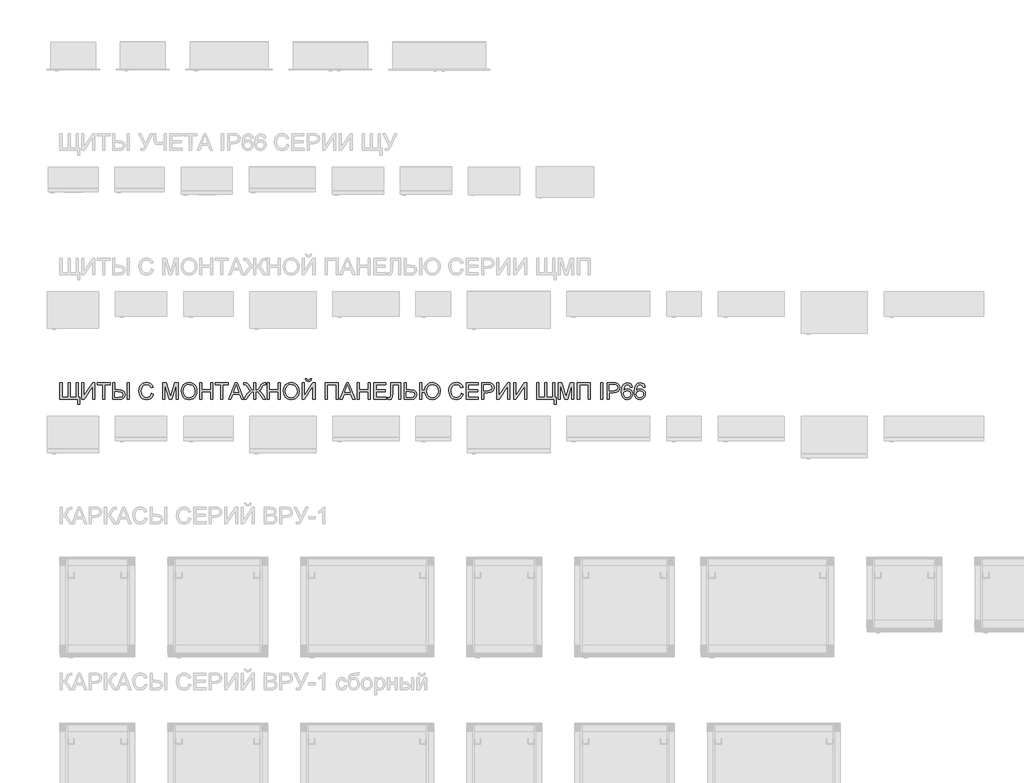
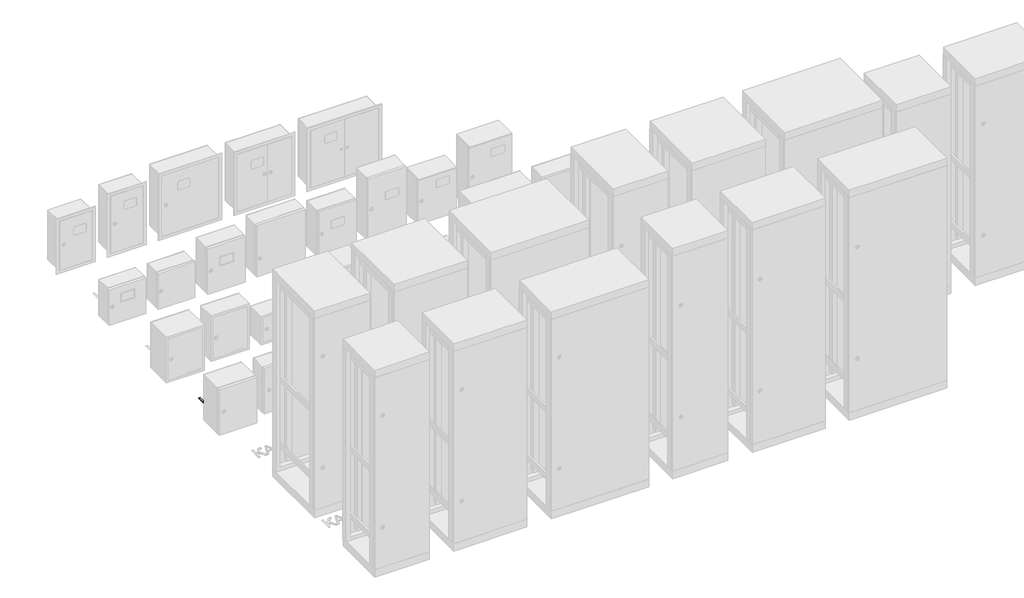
# One storey, part 8 of 25: 1 proxy.
"""IFC4 building model written with IfcOpenShell, lengths in millimetres."""

from ifc_helpers import new_model, si_unit, frame, origin, place, context, project, spatial, polyline, outline, extrude, element, save

model = new_model("IFC4")

# Units and contexts
model_context = context("Model", 3, world=origin())
ifc_project = project(units=[si_unit("LENGTHUNIT", "METRE", prefix="MILLI")], contexts=[model_context])

# Site, building, storey
site = spatial("IfcSite", under=ifc_project)
building = spatial("IfcBuilding", under=site)
storey = spatial("IfcBuildingStorey", under=building, Name="Этаж 01", Elevation=0.0)

# Proxy
placement = place(None, origin())
element("IfcBuildingElementProxy", 1, Name="Надпись на модели 1", ObjectType="Надпись на модели 1", at=placement, inside=storey, context=model_context, shape_type="SweptSolid", body=[
    extrude(outline(polyline([(-19039.6906686, 4636.6915941), (-19027.1336298, 4636.6915941), (-19027.1336298, 4548.7923228), (-18991.0321433, 4548.7923228), (-18991.0321433, 4636.6915941), (-18978.4751046, 4636.6915941), (-18978.4751046, 4548.7923228), (-18942.3736181, 4548.7923228), (-18942.3736181, 4636.6915941), (-18929.8165793, 4636.6915941), (-18929.8165793, 4548.7923228), (-18920.3988003, 4548.7923228), (-18920.3988003, 4507.9819468), (-18932.955839, 4507.9819468), (-18932.955839, 4536.235284), (-19039.6906686, 4536.235284), (-19039.6906686, 4636.6915941)])), frame((0.0, 0.0, 40.0), z_axis=(0.0, 0.0, 1.0), x_axis=(1.0, 0.0, 0.0)), (0.0, 0.0, 1.0), 2.0),
    extrude(outline(polyline([(-18907.8417615, 4636.6915941), (-18895.2847227, 4636.6915941), (-18895.2847227, 4557.1309813), (-18842.7021229, 4636.6915941), (-18829.3602692, 4636.6915941), (-18829.3602692, 4536.235284), (-18841.917308, 4536.235284), (-18841.917308, 4615.5751676), (-18894.3772805, 4536.235284), (-18907.8417615, 4536.235284), (-18907.8417615, 4636.6915941)])), frame((0.0, 0.0, 40.0), z_axis=(0.0, 0.0, 1.0), x_axis=(1.0, 0.0, 0.0)), (0.0, 0.0, 1.0), 2.0),
    extrude(outline(polyline([(-18782.2713738, 4536.235284), (-18782.2713738, 4624.1345554), (-18815.2336006, 4624.1345554), (-18815.2336006, 4636.6915941), (-18736.7521083, 4636.6915941), (-18736.7521083, 4624.1345554), (-18769.714335, 4624.1345554), (-18769.714335, 4536.235284), (-18782.2713738, 4536.235284)])), frame((0.0, 0.0, 40.0), z_axis=(0.0, 0.0, 1.0), x_axis=(1.0, 0.0, 0.0)), (0.0, 0.0, 1.0), 2.0),
    extrude(outline(polyline([(-18722.6254397, 4636.6915941), (-18710.0684009, 4636.6915941), (-18710.0684009, 4594.3115883), (-18685.935342, 4594.3115883), (-18666.2965748, 4592.1165591), (-18654.7634743, 4585.5314713), (-18649.1532739, 4576.1627432), (-18647.2832071, 4565.6167927), (-18649.2605728, 4554.6017926), (-18655.1926699, 4545.0521891), (-18666.4958443, 4538.4395103), (-18684.5864414, 4536.235284), (-18722.6254397, 4536.235284), (-18722.6254397, 4636.6915941)]), holes=[polyline([(-18710.0684009, 4548.7923228), (-18684.7090687, 4548.7923228), (-18665.7386205, 4552.777711), (-18661.3148395, 4557.9617815), (-18659.8402458, 4565.5432163), (-18663.4087012, 4575.5250811), (-18672.6302765, 4580.6509035), (-18691.5026229, 4581.7545495), (-18710.0684009, 4581.7545495), (-18710.0684009, 4548.7923228)])]), frame((0.0, 0.0, 40.0), z_axis=(0.0, 0.0, 1.0), x_axis=(1.0, 0.0, 0.0)), (0.0, 0.0, 1.0), 2.0),
    extrude(outline(polyline([(-18634.7261683, 4636.6915941), (-18622.1691295, 4636.6915941), (-18622.1691295, 4536.235284), (-18634.7261683, 4536.235284), (-18634.7261683, 4636.6915941)])), frame((0.0, 0.0, 40.0), z_axis=(0.0, 0.0, 1.0), x_axis=(1.0, 0.0, 0.0)), (0.0, 0.0, 1.0), 2.0),
    extrude(outline(polyline([(-18488.7505926, 4571.944363), (-18476.1935538, 4568.7070014), (-18481.9876953, 4554.0744951), (-18491.0805119, 4543.3844574), (-18503.024414, 4536.845355), (-18517.3718118, 4534.6656541), (-18531.9368731, 4536.3149918), (-18543.5036962, 4541.2630046), (-18552.3696523, 4549.3380144), (-18558.8321127, 4560.3683429), (-18564.0928252, 4587.2237285), (-18562.6059688, 4601.8715633), (-18558.1453996, 4614.5205726), (-18550.9441096, 4624.7691518), (-18541.2350906, 4632.2156965), (-18529.7203841, 4636.7498421), (-18517.1020317, 4638.261224), (-18503.334048, 4636.305318), (-18491.951166, 4630.4376002), (-18483.3090048, 4621.0198211), (-18477.7631837, 4608.4137314), (-18490.3202224, 4605.4216246), (-18500.6209183, 4620.8604056), (-18517.592541, 4625.7041852), (-18537.2374396, 4620.3331081), (-18548.3352131, 4605.9121339), (-18551.5357864, 4587.248254), (-18547.7466019, 4565.6167927), (-18535.9498526, 4551.7966924), (-18518.6226106, 4547.2226929), (-18508.1410394, 4548.78006), (-18499.4069077, 4553.4521614), (-18492.812623, 4561.189946), (-18488.7505926, 4571.944363)])), frame((0.0, 0.0, 40.0), z_axis=(0.0, 0.0, 1.0), x_axis=(1.0, 0.0, 0.0)), (0.0, 0.0, 1.0), 2.0),
    extrude(outline(polyline([(-18419.6868794, 4536.235284), (-18419.6868794, 4636.6915941), (-18398.0799435, 4636.6915941), (-18377.5276027, 4565.8865728), (-18373.3827989, 4551.0977166), (-18368.8946386, 4567.1128461), (-18348.6856543, 4636.6915941), (-18327.0787185, 4636.6915941), (-18327.0787185, 4536.235284), (-18339.6357572, 4536.235284), (-18339.6357572, 4624.1345554), (-18364.8724621, 4536.235284), (-18381.8931357, 4536.235284), (-18407.1298406, 4624.1345554), (-18407.1298406, 4536.235284), (-18419.6868794, 4536.235284)])), frame((0.0, 0.0, 40.0), z_axis=(0.0, 0.0, 1.0), x_axis=(1.0, 0.0, 0.0)), (0.0, 0.0, 1.0), 2.0),
    extrude(outline(polyline([(-18309.8127901, 4585.1390639), (-18306.465064, 4607.353005), (-18296.4218855, 4624.1590808), (-18281.0873377, 4634.7356882), (-18261.8655034, 4638.261224), (-18248.6891966, 4636.605755), (-18236.8740532, 4631.6393481), (-18227.0638667, 4623.7114911), (-18219.9024305, 4613.1716719), (-18215.5246348, 4600.528794), (-18214.0653695, 4586.2917608), (-18215.6012769, 4571.8646552), (-18220.2089989, 4559.0439677), (-18227.6340838, 4548.4857544), (-18237.62208, 4540.8460717), (-18249.3360558, 4536.2107585), (-18261.9390798, 4534.6656541), (-18275.3177217, 4536.3732397), (-18287.2003102, 4541.4959965), (-18296.9859712, 4549.5710063), (-18304.073831, 4560.1353509), (-18309.8127901, 4585.1390639)]), holes=[polyline([(-18297.2557514, 4585.0164366), (-18294.7449568, 4569.301744), (-18287.2125729, 4557.327185), (-18275.8910045, 4549.7488159), (-18262.0126562, 4547.2226929), (-18247.9319729, 4549.7733414), (-18236.5920104, 4557.4252869), (-18229.1148088, 4569.7677279), (-18226.6224083, 4586.3898627), (-18230.8898394, 4607.1138817), (-18243.3610391, 4620.8358802), (-18261.791927, 4625.7041852), (-18275.2993276, 4623.3589375), (-18286.7833772, 4616.3231943), (-18294.6376578, 4603.8060095), (-18297.2557514, 4585.0164366)])]), frame((0.0, 0.0, 40.0), z_axis=(0.0, 0.0, 1.0), x_axis=(1.0, 0.0, 0.0)), (0.0, 0.0, 1.0), 2.0),
    extrude(outline(polyline([(-18196.7994412, 4536.235284), (-18196.7994412, 4636.6915941), (-18184.2424025, 4636.6915941), (-18184.2424025, 4595.8812181), (-18130.8749877, 4595.8812181), (-18130.8749877, 4636.6915941), (-18118.3179489, 4636.6915941), (-18118.3179489, 4536.235284), (-18130.8749877, 4536.235284), (-18130.8749877, 4583.3241794), (-18184.2424025, 4583.3241794), (-18184.2424025, 4536.235284), (-18196.7994412, 4536.235284)])), frame((0.0, 0.0, 40.0), z_axis=(0.0, 0.0, 1.0), x_axis=(1.0, 0.0, 0.0)), (0.0, 0.0, 1.0), 2.0),
    extrude(outline(polyline([(-18071.2290535, 4536.235284), (-18071.2290535, 4624.1345554), (-18104.1912803, 4624.1345554), (-18104.1912803, 4636.6915941), (-18025.709788, 4636.6915941), (-18025.709788, 4624.1345554), (-18058.6720148, 4624.1345554), (-18058.6720148, 4536.235284), (-18071.2290535, 4536.235284)])), frame((0.0, 0.0, 40.0), z_axis=(0.0, 0.0, 1.0), x_axis=(1.0, 0.0, 0.0)), (0.0, 0.0, 1.0), 2.0),
    extrude(outline(polyline([(-18023.2817668, 4536.235284), (-17983.1826294, 4636.6915941), (-17972.489526, 4636.6915941), (-17932.3903886, 4536.235284), (-17945.6586659, 4536.235284), (-17957.1611096, 4567.6278809), (-17998.5355713, 4567.6278809), (-18010.0134895, 4536.235284), (-18023.2817668, 4536.235284)]), holes=[polyline([(-17993.9247836, 4580.1849197), (-17961.7473718, 4580.1849197), (-17970.7972689, 4604.8820643), (-17977.8360777, 4624.1345554), (-17984.0900716, 4607.0403053), (-17993.9247836, 4580.1849197)])]), frame((0.0, 0.0, 40.0), z_axis=(0.0, 0.0, 1.0), x_axis=(1.0, 0.0, 0.0)), (0.0, 0.0, 1.0), 2.0),
    extrude(outline(polyline([(-17859.3290243, 4636.6915941), (-17859.3290243, 4592.7419585), (-17844.3684898, 4596.1264728), (-17834.435676, 4612.8528409), (-17827.3232907, 4626.8936703), (-17819.3647769, 4633.8711655), (-17808.0462742, 4636.6915941), (-17799.6830902, 4636.5444413), (-17799.6830902, 4624.1345554), (-17802.4299424, 4624.2081318), (-17805.250371, 4624.2817082), (-17815.2322358, 4621.2160249), (-17822.8351304, 4608.389206), (-17830.8672206, 4594.0295454), (-17840.7141954, 4587.6897124), (-17830.7875129, 4581.8281259), (-17821.1673987, 4569.737071), (-17799.6830902, 4536.235284), (-17814.2757426, 4536.235284), (-17832.4981641, 4564.6602995), (-17845.0429402, 4579.1057992), (-17859.3290243, 4583.3241794), (-17859.3290243, 4536.235284), (-17871.8860631, 4536.235284), (-17871.8860631, 4583.3241794), (-17884.7741956, 4580.0500296), (-17897.809481, 4565.9601492), (-17916.9393448, 4536.235284), (-17931.5319972, 4536.235284), (-17910.0722142, 4569.737071), (-17900.3417354, 4581.8649141), (-17890.4763666, 4587.6897124), (-17899.7960438, 4593.3673578), (-17908.379957, 4608.389206), (-17916.2035808, 4621.485805), (-17925.89114, 4624.1345554), (-17931.5319972, 4623.9874026), (-17931.5319972, 4636.5444413), (-17923.6102716, 4636.6915941), (-17911.8380478, 4633.9324792), (-17904.0266867, 4627.0162977), (-17896.7794114, 4612.8283154), (-17886.8833858, 4596.0651591), (-17871.8860631, 4592.7419585), (-17871.8860631, 4636.6915941), (-17859.3290243, 4636.6915941)])), frame((0.0, 0.0, 40.0), z_axis=(0.0, 0.0, 1.0), x_axis=(1.0, 0.0, 0.0)), (0.0, 0.0, 1.0), 2.0),
    extrude(outline(polyline([(-17790.2653111, 4536.235284), (-17790.2653111, 4636.6915941), (-17777.7082723, 4636.6915941), (-17777.7082723, 4595.8812181), (-17724.3408576, 4595.8812181), (-17724.3408576, 4636.6915941), (-17711.7838188, 4636.6915941), (-17711.7838188, 4536.235284), (-17724.3408576, 4536.235284), (-17724.3408576, 4583.3241794), (-17777.7082723, 4583.3241794), (-17777.7082723, 4536.235284), (-17790.2653111, 4536.235284)])), frame((0.0, 0.0, 40.0), z_axis=(0.0, 0.0, 1.0), x_axis=(1.0, 0.0, 0.0)), (0.0, 0.0, 1.0), 2.0),
    extrude(outline(polyline([(-17694.5178905, 4585.1390639), (-17691.1701643, 4607.353005), (-17681.1269859, 4624.1590808), (-17665.792438, 4634.7356882), (-17646.5706038, 4638.261224), (-17633.394297, 4636.605755), (-17621.5791536, 4631.6393481), (-17611.768967, 4623.7114911), (-17604.6075309, 4613.1716719), (-17600.2297351, 4600.528794), (-17598.7704699, 4586.2917608), (-17600.3063772, 4571.8646552), (-17604.9140992, 4559.0439677), (-17612.3391841, 4548.4857544), (-17622.3271803, 4540.8460717), (-17634.0411562, 4536.2107585), (-17646.6441802, 4534.6656541), (-17660.0228221, 4536.3732397), (-17671.9054105, 4541.4959965), (-17681.6910716, 4549.5710063), (-17688.7789314, 4560.1353509), (-17694.5178905, 4585.1390639)]), holes=[polyline([(-17681.9608517, 4585.0164366), (-17679.4500571, 4569.301744), (-17671.9176732, 4557.327185), (-17660.5961048, 4549.7488159), (-17646.7177566, 4547.2226929), (-17632.6370732, 4549.7733414), (-17621.2971107, 4557.4252869), (-17613.8199092, 4569.7677279), (-17611.3275086, 4586.3898627), (-17615.5949398, 4607.1138817), (-17628.0661394, 4620.8358802), (-17646.4970274, 4625.7041852), (-17660.004428, 4623.3589375), (-17671.4884776, 4616.3231943), (-17679.3427582, 4603.8060095), (-17681.9608517, 4585.0164366)])]), frame((0.0, 0.0, 40.0), z_axis=(0.0, 0.0, 1.0), x_axis=(1.0, 0.0, 0.0)), (0.0, 0.0, 1.0), 2.0),
    extrude(outline(polyline([(-17581.5045416, 4636.6915941), (-17568.9475028, 4636.6915941), (-17568.9475028, 4557.1309813), (-17516.3649029, 4636.6915941), (-17503.0230493, 4636.6915941), (-17503.0230493, 4536.235284), (-17515.580088, 4536.235284), (-17515.580088, 4615.5751676), (-17568.0400605, 4536.235284), (-17581.5045416, 4536.235284), (-17581.5045416, 4636.6915941)])), frame((0.0, 0.0, 40.0), z_axis=(0.0, 0.0, 1.0), x_axis=(1.0, 0.0, 0.0)), (0.0, 0.0, 1.0), 2.0),
    extrude(outline(polyline([(-17531.2763865, 4661.8056717), (-17521.8586074, 4661.8056717), (-17527.9531858, 4647.8384186), (-17541.4789805, 4642.9701135), (-17556.1206839, 4647.8016304), (-17562.6689834, 4661.8056717), (-17553.2512043, 4661.8056717), (-17549.7195372, 4654.7300746), (-17542.6071519, 4652.3878926), (-17534.8080536, 4654.6564982), (-17531.2763865, 4661.8056717)])), frame((0.0, 0.0, 40.0), z_axis=(0.0, 0.0, 1.0), x_axis=(1.0, 0.0, 0.0)), (0.0, 0.0, 1.0), 2.0),
    extrude(outline(polyline([(-17441.8074853, 4636.6915941), (-17363.325993, 4636.6915941), (-17363.325993, 4536.235284), (-17375.8830317, 4536.235284), (-17375.8830317, 4624.1345554), (-17429.2504465, 4624.1345554), (-17429.2504465, 4536.235284), (-17441.8074853, 4536.235284), (-17441.8074853, 4636.6915941)])), frame((0.0, 0.0, 40.0), z_axis=(0.0, 0.0, 1.0), x_axis=(1.0, 0.0, 0.0)), (0.0, 0.0, 1.0), 2.0),
    extrude(outline(polyline([(-17353.0498226, 4536.235284), (-17312.9506851, 4636.6915941), (-17302.2575818, 4636.6915941), (-17262.1584443, 4536.235284), (-17275.4267216, 4536.235284), (-17286.9291653, 4567.6278809), (-17328.303627, 4567.6278809), (-17339.7815453, 4536.235284), (-17353.0498226, 4536.235284)]), holes=[polyline([(-17323.6928393, 4580.1849197), (-17291.5154275, 4580.1849197), (-17300.5653246, 4604.8820643), (-17307.6041334, 4624.1345554), (-17313.8581273, 4607.0403053), (-17323.6928393, 4580.1849197)])]), frame((0.0, 0.0, 40.0), z_axis=(0.0, 0.0, 1.0), x_axis=(1.0, 0.0, 0.0)), (0.0, 0.0, 1.0), 2.0),
    extrude(outline(polyline([(-17248.7430142, 4536.235284), (-17248.7430142, 4636.6915941), (-17236.1859754, 4636.6915941), (-17236.1859754, 4595.8812181), (-17182.8185607, 4595.8812181), (-17182.8185607, 4636.6915941), (-17170.2615219, 4636.6915941), (-17170.2615219, 4536.235284), (-17182.8185607, 4536.235284), (-17182.8185607, 4583.3241794), (-17236.1859754, 4583.3241794), (-17236.1859754, 4536.235284), (-17248.7430142, 4536.235284)])), frame((0.0, 0.0, 40.0), z_axis=(0.0, 0.0, 1.0), x_axis=(1.0, 0.0, 0.0)), (0.0, 0.0, 1.0), 2.0),
    extrude(outline(polyline([(-17148.286704, 4536.235284), (-17148.286704, 4636.6915941), (-17076.0837311, 4636.6915941), (-17076.0837311, 4624.1345554), (-17135.7296653, 4624.1345554), (-17135.7296653, 4594.3115883), (-17079.2229908, 4594.3115883), (-17079.2229908, 4581.7545495), (-17135.7296653, 4581.7545495), (-17135.7296653, 4548.7923228), (-17074.5141013, 4548.7923228), (-17074.5141013, 4536.235284), (-17148.286704, 4536.235284)])), frame((0.0, 0.0, 40.0), z_axis=(0.0, 0.0, 1.0), x_axis=(1.0, 0.0, 0.0)), (0.0, 0.0, 1.0), 2.0),
    extrude(outline(polyline([(-17047.8303939, 4636.6915941), (-16986.6148299, 4636.6915941), (-16986.6148299, 4536.235284), (-16999.1718687, 4536.235284), (-16999.1718687, 4624.1345554), (-17035.2733551, 4624.1345554), (-17035.2733551, 4572.8763307), (-17036.7326204, 4550.0063333), (-17042.8517242, 4538.7000934), (-17054.672999, 4534.6656541), (-17065.0963222, 4536.235284), (-17063.5266923, 4548.7923228), (-17057.5179531, 4547.2226929), (-17050.2461523, 4550.5949445), (-17047.8303939, 4566.475184), (-17047.8303939, 4636.6915941)])), frame((0.0, 0.0, 40.0), z_axis=(0.0, 0.0, 1.0), x_axis=(1.0, 0.0, 0.0)), (0.0, 0.0, 1.0), 2.0),
    extrude(outline(polyline([(-16964.640012, 4636.6915941), (-16952.0829733, 4636.6915941), (-16952.0829733, 4594.3115883), (-16928.5630511, 4594.3115883), (-16904.712035, 4590.375251), (-16894.0925081, 4579.6576222), (-16890.8674093, 4565.6903691), (-16892.8049211, 4554.666172), (-16898.6174566, 4545.0889773), (-16909.7029674, 4538.4487073), (-16927.4594051, 4536.235284), (-16964.640012, 4536.235284), (-16964.640012, 4636.6915941)]), holes=[polyline([(-16952.0829733, 4548.7923228), (-16927.4839305, 4548.7923228), (-16915.1108328, 4550.0339245), (-16907.9616593, 4553.7587297), (-16903.424448, 4565.73942), (-16906.7108605, 4575.4269792), (-16915.4787148, 4580.5895899), (-16934.0567555, 4581.7545495), (-16952.0829733, 4581.7545495), (-16952.0829733, 4548.7923228)])]), frame((0.0, 0.0, 40.0), z_axis=(0.0, 0.0, 1.0), x_axis=(1.0, 0.0, 0.0)), (0.0, 0.0, 1.0), 2.0),
    extrude(outline(polyline([(-16873.601481, 4636.6915941), (-16861.0444422, 4636.6915941), (-16861.0444422, 4592.7419585), (-16842.2088841, 4592.7419585), (-16837.8893363, 4611.4303638), (-16827.873749, 4625.900389), (-16813.4742345, 4635.1710152), (-16796.0029055, 4638.261224), (-16777.663988, 4634.8092646), (-16762.7708986, 4624.4533864), (-16752.893267, 4608.1868709), (-16749.6007231, 4587.0029993), (-16752.8963327, 4565.0864295), (-16762.7831613, 4548.5348054), (-16777.8019437, 4538.132942), (-16796.4934148, 4534.6656541), (-16813.5999276, 4537.6884179), (-16827.5917061, 4546.7567091), (-16837.4632063, 4561.1592892), (-16842.2088841, 4580.1849197), (-16861.0444422, 4580.1849197), (-16861.0444422, 4536.235284), (-16873.601481, 4536.235284), (-16873.601481, 4636.6915941)]), holes=[polyline([(-16829.6518453, 4585.9238788), (-16827.331123, 4569.5899182), (-16820.3689563, 4557.376236), (-16809.6359991, 4549.7610787), (-16796.0029055, 4547.2226929), (-16782.1306886, 4549.7702757), (-16771.3670745, 4557.4130242), (-16764.4600901, 4569.8382386), (-16762.1577619, 4586.7332192), (-16764.4233019, 4602.9322897), (-16771.2199217, 4615.280862), (-16781.8793025, 4623.0983544), (-16795.7331253, 4625.7041852), (-16809.7984803, 4623.0646319), (-16820.5528973, 4615.145972), (-16827.3771083, 4602.561342), (-16829.6518453, 4585.9238788)])]), frame((0.0, 0.0, 40.0), z_axis=(0.0, 0.0, 1.0), x_axis=(1.0, 0.0, 0.0)), (0.0, 0.0, 1.0), 2.0),
    extrude(outline(polyline([(-16622.4607056, 4571.944363), (-16609.9036668, 4568.7070014), (-16615.6978083, 4554.0744951), (-16624.7906249, 4543.3844574), (-16636.734527, 4536.845355), (-16651.0819248, 4534.6656541), (-16665.6469861, 4536.3149918), (-16677.2138092, 4541.2630046), (-16686.0797653, 4549.3380144), (-16692.5422257, 4560.3683429), (-16697.8029382, 4587.2237285), (-16696.3160818, 4601.8715633), (-16691.8555126, 4614.5205726), (-16684.6542226, 4624.7691518), (-16674.9452036, 4632.2156965), (-16663.4304971, 4636.7498421), (-16650.8121447, 4638.261224), (-16637.044161, 4636.305318), (-16625.661279, 4630.4376002), (-16617.0191178, 4621.0198211), (-16611.4732967, 4608.4137314), (-16624.0303354, 4605.4216246), (-16634.3310313, 4620.8604056), (-16651.302654, 4625.7041852), (-16670.9475526, 4620.3331081), (-16682.0453261, 4605.9121339), (-16685.2458994, 4587.248254), (-16681.4567149, 4565.6167927), (-16669.6599656, 4551.7966924), (-16652.3327236, 4547.2226929), (-16641.8511524, 4548.78006), (-16633.1170207, 4553.4521614), (-16626.522736, 4561.189946), (-16622.4607056, 4571.944363)])), frame((0.0, 0.0, 40.0), z_axis=(0.0, 0.0, 1.0), x_axis=(1.0, 0.0, 0.0)), (0.0, 0.0, 1.0), 2.0),
    extrude(outline(polyline([(-16592.6377385, 4536.235284), (-16592.6377385, 4636.6915941), (-16520.4347656, 4636.6915941), (-16520.4347656, 4624.1345554), (-16580.0806998, 4624.1345554), (-16580.0806998, 4594.3115883), (-16523.5740253, 4594.3115883), (-16523.5740253, 4581.7545495), (-16580.0806998, 4581.7545495), (-16580.0806998, 4548.7923228), (-16518.8651358, 4548.7923228), (-16518.8651358, 4536.235284), (-16592.6377385, 4536.235284)])), frame((0.0, 0.0, 40.0), z_axis=(0.0, 0.0, 1.0), x_axis=(1.0, 0.0, 0.0)), (0.0, 0.0, 1.0), 2.0),
    extrude(outline(polyline([(-16500.0295776, 4536.235284), (-16500.0295776, 4636.6915941), (-16462.7999197, 4636.6915941), (-16447.7903343, 4635.735101), (-16435.5889148, 4631.0384742), (-16427.6794519, 4621.3263895), (-16424.687345, 4607.6289165), (-16426.7076303, 4595.7892476), (-16432.7684862, 4585.9238788), (-16444.1023173, 4579.2652147), (-16461.9415284, 4577.04566), (-16487.4725388, 4577.04566), (-16487.4725388, 4536.235284), (-16500.0295776, 4536.235284)]), holes=[polyline([(-16487.4725388, 4589.6026988), (-16461.2057644, 4589.6026988), (-16442.7135628, 4594.2134864), (-16438.6116785, 4599.7623732), (-16437.2443838, 4607.1874581), (-16440.4694826, 4617.5862559), (-16448.9430312, 4623.2761641), (-16461.50007, 4624.1345554), (-16487.4725388, 4624.1345554), (-16487.4725388, 4589.6026988)])]), frame((0.0, 0.0, 40.0), z_axis=(0.0, 0.0, 1.0), x_axis=(1.0, 0.0, 0.0)), (0.0, 0.0, 1.0), 2.0),
    extrude(outline(polyline([(-16407.4214167, 4636.6915941), (-16394.8643779, 4636.6915941), (-16394.8643779, 4557.1309813), (-16342.2817781, 4636.6915941), (-16328.9399244, 4636.6915941), (-16328.9399244, 4536.235284), (-16341.4969631, 4536.235284), (-16341.4969631, 4615.5751676), (-16393.9569357, 4536.235284), (-16407.4214167, 4536.235284), (-16407.4214167, 4636.6915941)])), frame((0.0, 0.0, 40.0), z_axis=(0.0, 0.0, 1.0), x_axis=(1.0, 0.0, 0.0)), (0.0, 0.0, 1.0), 2.0),
    extrude(outline(polyline([(-16306.9651065, 4636.6915941), (-16294.4080678, 4636.6915941), (-16294.4080678, 4557.1309813), (-16241.8254679, 4636.6915941), (-16228.4836142, 4636.6915941), (-16228.4836142, 4536.235284), (-16241.040653, 4536.235284), (-16241.040653, 4615.5751676), (-16293.5006255, 4536.235284), (-16306.9651065, 4536.235284), (-16306.9651065, 4636.6915941)])), frame((0.0, 0.0, 40.0), z_axis=(0.0, 0.0, 1.0), x_axis=(1.0, 0.0, 0.0)), (0.0, 0.0, 1.0), 2.0),
    extrude(outline(polyline([(-16168.8376801, 4636.6915941), (-16156.2806413, 4636.6915941), (-16156.2806413, 4548.7923228), (-16120.1791549, 4548.7923228), (-16120.1791549, 4636.6915941), (-16107.6221161, 4636.6915941), (-16107.6221161, 4548.7923228), (-16071.5206296, 4548.7923228), (-16071.5206296, 4636.6915941), (-16058.9635909, 4636.6915941), (-16058.9635909, 4548.7923228), (-16049.5458118, 4548.7923228), (-16049.5458118, 4507.9819468), (-16062.1028505, 4507.9819468), (-16062.1028505, 4536.235284), (-16168.8376801, 4536.235284), (-16168.8376801, 4636.6915941)])), frame((0.0, 0.0, 40.0), z_axis=(0.0, 0.0, 1.0), x_axis=(1.0, 0.0, 0.0)), (0.0, 0.0, 1.0), 2.0),
    extrude(outline(polyline([(-16036.988773, 4536.235284), (-16036.988773, 4636.6915941), (-16015.3818372, 4636.6915941), (-15994.8294964, 4565.8865728), (-15990.6846925, 4551.0977166), (-15986.1965322, 4567.1128461), (-15965.9875479, 4636.6915941), (-15944.3806121, 4636.6915941), (-15944.3806121, 4536.235284), (-15956.9376509, 4536.235284), (-15956.9376509, 4624.1345554), (-15982.1743557, 4536.235284), (-15999.1950294, 4536.235284), (-16024.4317342, 4624.1345554), (-16024.4317342, 4536.235284), (-16036.988773, 4536.235284)])), frame((0.0, 0.0, 40.0), z_axis=(0.0, 0.0, 1.0), x_axis=(1.0, 0.0, 0.0)), (0.0, 0.0, 1.0), 2.0),
    extrude(outline(polyline([(-15922.4057942, 4636.6915941), (-15843.9243019, 4636.6915941), (-15843.9243019, 4536.235284), (-15856.4813407, 4536.235284), (-15856.4813407, 4624.1345554), (-15909.8487555, 4624.1345554), (-15909.8487555, 4536.235284), (-15922.4057942, 4536.235284), (-15922.4057942, 4636.6915941)])), frame((0.0, 0.0, 40.0), z_axis=(0.0, 0.0, 1.0), x_axis=(1.0, 0.0, 0.0)), (0.0, 0.0, 1.0), 2.0),
    extrude(outline(polyline([(-15781.1391081, 4536.235284), (-15781.1391081, 4636.6915941), (-15768.5820693, 4636.6915941), (-15768.5820693, 4536.235284), (-15781.1391081, 4536.235284)])), frame((0.0, 0.0, 40.0), z_axis=(0.0, 0.0, 1.0), x_axis=(1.0, 0.0, 0.0)), (0.0, 0.0, 1.0), 2.0),
    extrude(outline(polyline([(-15743.4679918, 4536.235284), (-15743.4679918, 4636.6915941), (-15706.2383339, 4636.6915941), (-15691.2287485, 4635.735101), (-15679.027329, 4631.0384742), (-15671.1178661, 4621.3263895), (-15668.1257592, 4607.6289165), (-15670.1460445, 4595.7892476), (-15676.2069003, 4585.9238788), (-15687.5407315, 4579.2652147), (-15705.3799426, 4577.04566), (-15730.910953, 4577.04566), (-15730.910953, 4536.235284), (-15743.4679918, 4536.235284)]), holes=[polyline([(-15730.910953, 4589.6026988), (-15704.6441786, 4589.6026988), (-15686.1519769, 4594.2134864), (-15682.0500927, 4599.7623732), (-15680.6827979, 4607.1874581), (-15683.9078968, 4617.5862559), (-15692.3814454, 4623.2761641), (-15704.9384842, 4624.1345554), (-15730.910953, 4624.1345554), (-15730.910953, 4589.6026988)])]), frame((0.0, 0.0, 40.0), z_axis=(0.0, 0.0, 1.0), x_axis=(1.0, 0.0, 0.0)), (0.0, 0.0, 1.0), 2.0),
    extrude(outline(polyline([(-15591.2138967, 4610.0078868), (-15603.7709355, 4608.4382569), (-15608.528876, 4618.910631), (-15621.1104402, 4624.1345554), (-15632.4412056, 4621.0933975), (-15641.0128561, 4609.676793), (-15644.5813115, 4587.2973049), (-15633.5080634, 4597.3159579), (-15619.786065, 4600.5901077), (-15608.1855194, 4598.3521589), (-15598.4489093, 4591.6383125), (-15591.8454275, 4581.3805362), (-15589.6442669, 4568.5107977), (-15593.7890707, 4551.1835557), (-15605.1934125, 4538.9208226), (-15621.6500005, 4534.6656541), (-15635.8962307, 4537.4860828), (-15647.2423246, 4545.9473687), (-15654.6643438, 4560.8833777), (-15657.1383503, 4583.1279756), (-15654.391498, 4608.13782), (-15646.1509413, 4625.2382014), (-15634.8998836, 4633.8282459), (-15620.3256253, 4636.6915941), (-15609.3075595, 4634.9196292), (-15600.484523, 4629.6037344), (-15594.3041055, 4621.1608426), (-15591.2138967, 4610.0078868)]), holes=[polyline([(-15644.5813115, 4568.7070014), (-15641.6750437, 4557.8299571), (-15633.9495218, 4549.9327569), (-15622.6310191, 4547.2226929), (-15614.3444772, 4548.6267759), (-15607.8299002, 4552.8390247), (-15603.6084543, 4559.4609006), (-15602.2013056, 4568.0938648), (-15603.5900602, 4576.3804067), (-15607.7563238, 4582.69878), (-15614.3812654, 4586.6994967), (-15623.1460539, 4588.0330689), (-15638.3395803, 4582.69878), (-15643.0208787, 4576.5336909), (-15644.5813115, 4568.7070014)])]), frame((0.0, 0.0, 40.0), z_axis=(0.0, 0.0, 1.0), x_axis=(1.0, 0.0, 0.0)), (0.0, 0.0, 1.0), 2.0),
    extrude(outline(polyline([(-15514.3020343, 4610.0078868), (-15526.859073, 4608.4382569), (-15531.6170135, 4618.910631), (-15544.1985777, 4624.1345554), (-15555.5293432, 4621.0933975), (-15564.1009937, 4609.676793), (-15567.669449, 4587.2973049), (-15556.596201, 4597.3159579), (-15542.8742026, 4600.5901077), (-15531.273657, 4598.3521589), (-15521.5370468, 4591.6383125), (-15514.933565, 4581.3805362), (-15512.7324044, 4568.5107977), (-15516.8772082, 4551.1835557), (-15528.2815501, 4538.9208226), (-15544.738138, 4534.6656541), (-15558.9843683, 4537.4860828), (-15570.3304621, 4545.9473687), (-15577.7524814, 4560.8833777), (-15580.2264878, 4583.1279756), (-15577.4796356, 4608.13782), (-15569.2390789, 4625.2382014), (-15557.9880212, 4633.8282459), (-15543.4137628, 4636.6915941), (-15532.3956971, 4634.9196292), (-15523.5726605, 4629.6037344), (-15517.392243, 4621.1608426), (-15514.3020343, 4610.0078868)]), holes=[polyline([(-15567.669449, 4568.7070014), (-15564.7631813, 4557.8299571), (-15557.0376594, 4549.9327569), (-15545.7191566, 4547.2226929), (-15537.4326147, 4548.6267759), (-15530.9180377, 4552.8390247), (-15526.6965918, 4559.4609006), (-15525.2894432, 4568.0938648), (-15526.6781977, 4576.3804067), (-15530.8444613, 4582.69878), (-15537.4694029, 4586.6994967), (-15546.2341914, 4588.0330689), (-15561.4277178, 4582.69878), (-15566.1090162, 4576.5336909), (-15567.669449, 4568.7070014)])]), frame((0.0, 0.0, 40.0), z_axis=(0.0, 0.0, 1.0), x_axis=(1.0, 0.0, 0.0)), (0.0, 0.0, 1.0), 2.0),
])

save(model, "model.ifc")
